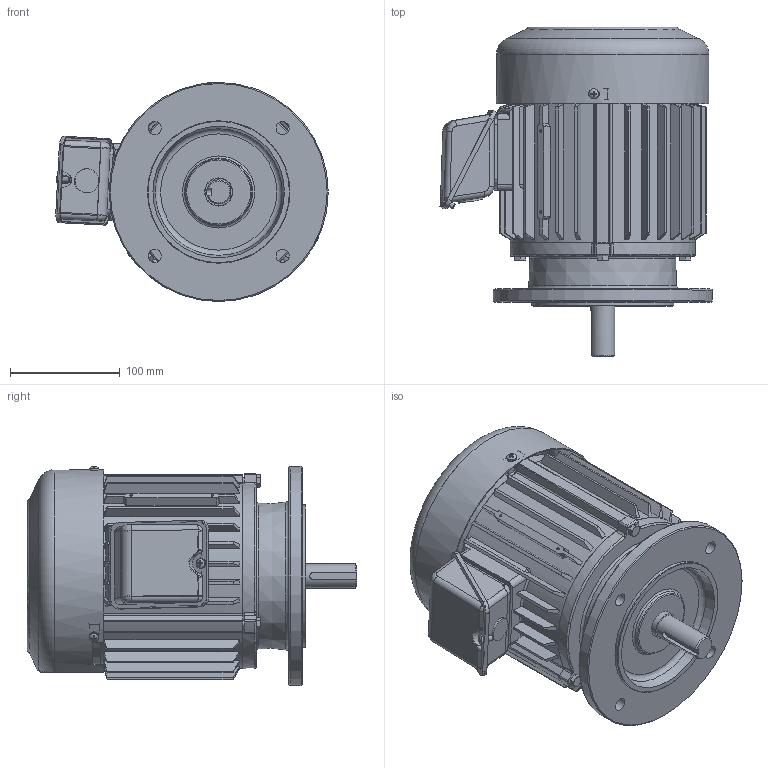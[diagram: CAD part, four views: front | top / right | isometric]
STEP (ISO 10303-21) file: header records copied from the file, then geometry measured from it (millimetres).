
FILE_DESCRIPTION(/* description */ ('Unknown'),/* implementation_level */ '2;1');
FILE_NAME(/* name */ '1-SMA-33827_외형도(160DIA)',/* time_stamp */ '2026-07-24T08:40:48+09:00',/* author */ ('Unknown'),/* organization */ ('Unknown'),/* preprocessor_version */ 'ST-DEVELOPER v16',/* originating_system */ 'DEX',/* authorisation */ $);
FILE_SCHEMA (('AUTOMOTIVE_DESIGN {1 0 10303 214 3 1 1}'));
Products named in the file (17): 1-SMA-33827_寇屈档(160DI; 2-SMA-30856_FRAME(160DIA); 3-SMA-30857_擅粽塭鰍(160D; 4-SMA-30854_菴粽塭鰍(160D; 5-SMA-30858_SHAFT(160DIA); 6-SMA-31242_FAN(160DIA); 7-SMA-30643_FAN COVER(160DIA); 6205ZZ; 6204ZZ; 褊濠 菅斬 該葬 獐お M5x; 幫陝獐お M6x1x; SMA33038,33039_攪嘐割 ; 8-SMA-33038_T-BOX(鼻)(120,140DIA); 9-SMA-33039_T-BOX(ﾇﾏ)(120~140DIA)渝X; T-BOX 憶っ(120~160DIA; T-BOX 歜衛 馨檜綰斜楠萄(120~holder; ﾀｰｰ｢ｺｼﾆｮ M6x1x25L_mp
Assembly tree (23 placements, depth 3):
  1-SMA-33827_寇屈档(160DI
    2-SMA-30856_FRAME(160DIA)
    3-SMA-30857_擅粽塭鰍(160D
    4-SMA-30854_菴粽塭鰍(160D
    5-SMA-30858_SHAFT(160DIA)
    6-SMA-31242_FAN(160DIA)
    7-SMA-30643_FAN COVER(160DIA)
    6205ZZ
    6204ZZ
    褊濠 菅斬 該葬 獐お M5x  x3
    幫陝獐お M6x1x  x3
    SMA33038,33039_攪嘐割 
      8-SMA-33038_T-BOX(鼻)(120,140DIA)
      9-SMA-33039_T-BOX(ﾇﾏ)(120~140DIA)渝X
      T-BOX 憶っ(120~160DIA
      T-BOX 歜衛 馨檜綰斜楠萄(120~holder
      褊濠 菅斬 該葬 獐お M5x
    ﾀｰｰ｢ｺｼﾆｮ M6x1x25L_mp  x3
Bounding box: 248.74 x 301 x 200 mm (x, y, z)
Volume: 1471891.1 mm3; surface area: 689306.9 mm2
Topology: 44 solids, 44 shells, 1615 faces, 4053 edges, 2582 vertices
Faces by surface type: plane 576, cylinder 529, cone 301, torus 150, bspline 39, sphere 20
Full cylindrical faces by diameter (mm): 2.2 x2, 4.134 x3, 4.917 x12, 5 x7, 6 x17, 8 x6, 9 x4, 12 x4, 18.2 x2, 19.8 x1, 20 x2, 20.6 x1, 22 x3, 24.8 x1, 25 x2, 25.1 x1, 25.6 x1, 27.5 x1, 27.714 x2, 28.114 x2, 32.714 x2, 33 x2, 33.114 x2, 35 x2, 38.886 x2, 39.286 x2, 43.886 x2, 44.286 x2, 45 x1, 47 x2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
Entity records: 59437 total; most frequent: CARTESIAN_POINT 21954, DIRECTION 7128, ORIENTED_EDGE 6872, EDGE_CURVE 3436, AXIS2_PLACEMENT_3D 2924, VERTEX_POINT 2311, FACE_BOUND 1835, EDGE_LOOP 1811
